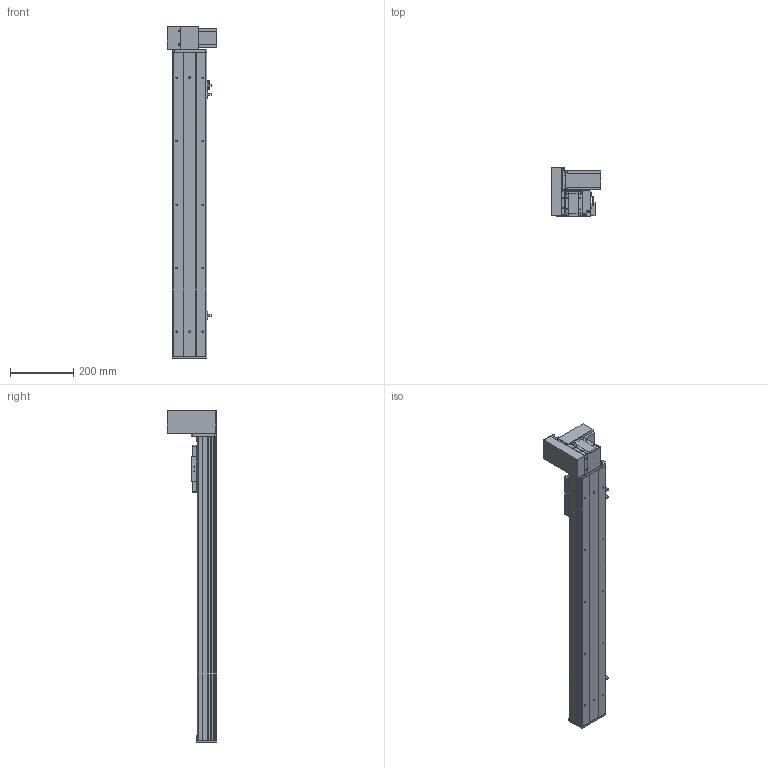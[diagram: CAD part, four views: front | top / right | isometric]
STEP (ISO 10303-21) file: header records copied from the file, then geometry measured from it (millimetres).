
FILE_DESCRIPTION (( 'STEP AP203' ), '1' );
FILE_NAME ('Y10CB-D90-S700-UL-P400W.STEP', '2020-02-16T07:12:56', ( '微软用户' ), ( '微软中国' ), 'SwSTEP 2.0', 'SolidWorks 2017', '' );
FILE_SCHEMA (( 'CONFIG_CONTROL_DESIGN' ));
Length unit declared in the file: millimetre
Products named in the file (18): Y10CB-D90-S700-UL-P400W; Y10C---詩湍揤啣; 0Cb-俋欶---; 10CB9-掛极; Y10B-々湍喘謫眊楊擘啣--; 10CB-耜裔; 0B-萇儂楊擘啣; Y135C-陔俋离換覜結え-; san松下电机400不带刹车----; Y100-135俋离換覜ん--; 0B-源倛裔啣; Y10B-耜蚾蟀諉啣----; 0B-埴倛裔啣; 00B-俋欶BM--; 10CB-詩湍-; Y10B--々湍喘謫眊--666; Y10CB- 掛极耜裔啣-毀---; 0CB-雄赽釱---
Assembly tree (21 placements, depth 2):
  Y10CB-D90-S700-UL-P400W
    0CB-雄赽釱---
    0Cb-俋欶---
    Y10B-々湍喘謫眊楊擘啣--
    0B-萇儂楊擘啣
    san松下电机400不带刹车----
    0B-源倛裔啣
    0B-埴倛裔啣
    10CB-詩湍-
    Y10CB- 掛极耜裔啣-毀---  x2
    Y10C---詩湍揤啣  x2
    10CB9-掛极
    10CB-耜裔
    Y135C-陔俋离換覜結え-
    Y100-135俋离換覜ん--  x3
    Y10B-耜蚾蟀諉啣----
    00B-俋欶BM--
    Y10B--々湍喘謫眊--666
Bounding box: 157 x 155.5 x 1046 mm (x, y, z)
Volume: 2612573.8 mm3; surface area: 1147331.3 mm2
Topology: 21 solids, 21 shells, 966 faces, 2563 edges, 1682 vertices
Faces by surface type: plane 473, cylinder 469, cone 24
Entity records: 29912 total; most frequent: CARTESIAN_POINT 5173, DIRECTION 4862, ORIENTED_EDGE 4596, EDGE_CURVE 2298, AXIS2_PLACEMENT_3D 1741, VERTEX_POINT 1508, VECTOR 1380, LINE 1380
